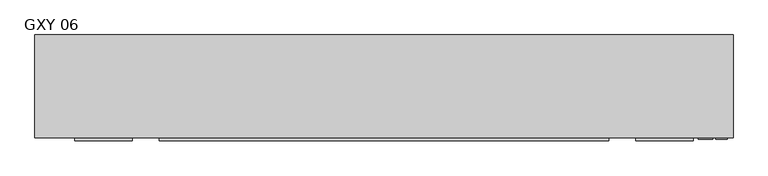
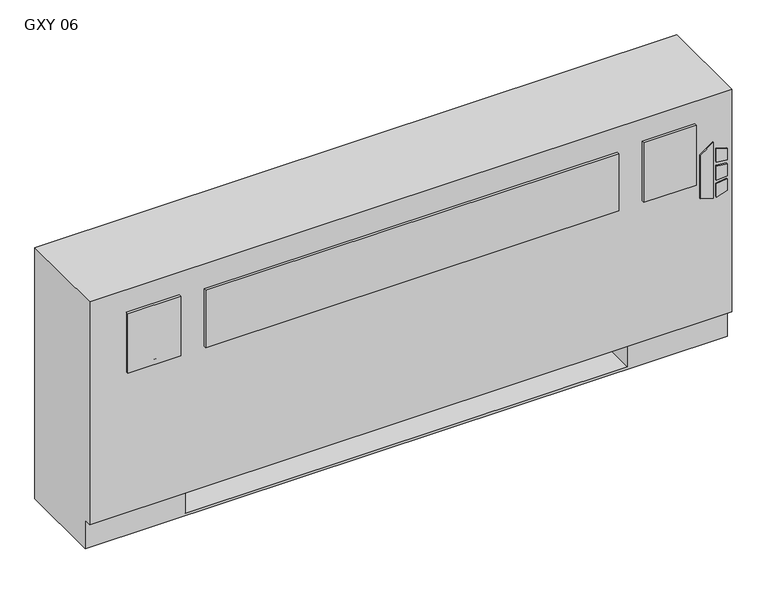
"""IFC4 building model written with IfcOpenShell, lengths in millimetres: proxy geometry, Vertical_Fan_Coil_Unit_-_GXY_-_IEC_-_2-Pipe_FS-FR_LH_2022 : GXY 06."""

from ifc_helpers import new_model, si_unit, point, frame, frame_2d, origin, place, context, project, spatial, polyline, circle_curve, trimmed, segment, composite_curve, outline, extrude, source, transform, mapped, element, save
from ifc_brep_helpers import plane_surface, revolved_surface, advanced_brep


def gxy_06_de5f520c(model_context):
    return source(origin(), model_context, "Body", "SolidModel", [
        extrude(outline(polyline([(391.6086829, 849.3868862), (381.6606126, 881.5602728), (523.831537, 881.5602728), (500.8095309, 849.3868862), (391.6086829, 849.3868862)])), frame((0.0, 12.7, 0.0), z_axis=(0.0, 1.0, 0.0), x_axis=(0.0, 0.0, 1.0)), (0.0, 0.0, 1.0), 3.175),
        extrude(outline(polyline([(470.6079683, 888.3186058), (467.4055757, 914.4), (496.6344168, 914.4), (504.6988318, 888.3186058), (470.6079683, 888.3186058)])), frame((0.0, 12.7, 0.0), z_axis=(0.0, 1.0, 0.0), x_axis=(0.0, 0.0, 1.0)), (0.0, 0.0, 1.0), 3.175),
        extrude(outline(polyline([(418.7444414, 914.4), (415.0789404, 888.3186058), (381.6606126, 888.3186058), (390.2948498, 914.4), (418.7444414, 914.4)])), frame((0.0, 12.7, 0.0), z_axis=(0.0, 1.0, 0.0), x_axis=(0.0, 0.0, 1.0)), (0.0, 0.0, 1.0), 3.175),
        extrude(outline(polyline([(458.0596028, 914.4), (460.3414292, 888.3186058), (424.4038806, 888.3186058), (427.1451456, 914.4), (458.0596028, 914.4)])), frame((0.0, 12.7, 0.0), z_axis=(0.0, 1.0, 0.0), x_axis=(0.0, 0.0, 1.0)), (0.0, 0.0, 1.0), 3.175),
        extrude(outline(polyline([(-406.4, 9.525), (-533.4, 9.525), (-533.4, 15.875), (-406.4, 15.875), (-406.4, 9.525)])), frame((0.0, 0.0, 431.8), z_axis=(0.0, 0.0, 1.0), x_axis=(1.0, 0.0, 0.0)), (0.0, 0.0, 1.0), 152.4),
        extrude(outline(polyline([(650.875, 9.525), (-346.075, 9.525), (-346.075, 15.875), (650.875, 15.875), (650.875, 9.525)])), frame((0.0, 0.0, 431.8), z_axis=(0.0, 0.0, 1.0), x_axis=(1.0, 0.0, 0.0)), (0.0, 0.0, 1.0), 146.05),
        extrude(outline(polyline([(838.2, 9.525), (711.2, 9.525), (711.2, 15.875), (838.2, 15.875), (838.2, 9.525)])), frame((0.0, 0.0, 431.8), z_axis=(0.0, 0.0, 1.0), x_axis=(1.0, 0.0, 0.0)), (0.0, 0.0, 1.0), 152.4),
        extrude(outline(polyline([(685.8, 81.534), (685.8, 223.266), (806.45, 223.266), (806.45, 81.534), (685.8, 81.534)])), frame((0.0, 0.0, 327.025), z_axis=(0.0, 0.0, 1.0), x_axis=(1.0, 0.0, 0.0)), (0.0, 0.0, 1.0), 260.35),
        extrude(outline(composite_curve([segment(trimmed(circle_curve(frame_2d((78.9432, 398.5514)), 7.9375), [point((78.9432, 406.4889))], [point((78.9432, 390.6139))], False, "CARTESIAN"), True, "CONTINUOUS"), segment(trimmed(circle_curve(frame_2d((78.9432, 398.5514)), 7.9375), [point((78.9432, 390.6139))], [point((78.9432, 406.4889))], False, "CARTESIAN"), True, "CONTINUOUS")], self_intersect=False)), frame((-431.8, 0.0, 0.0), z_axis=(1.0, 0.0, 0.0), x_axis=(0.0, 1.0, 0.0)), (0.0, 0.0, 1.0), 50.8),
        extrude(outline(composite_curve([segment(trimmed(circle_curve(frame_2d((155.9052, 537.3878)), 7.9375), [point((155.9052, 545.3253))], [point((155.9052, 529.4503))], False, "CARTESIAN"), True, "CONTINUOUS"), segment(trimmed(circle_curve(frame_2d((155.9052, 537.3878)), 7.9375), [point((155.9052, 529.4503))], [point((155.9052, 545.3253))], False, "CARTESIAN"), True, "CONTINUOUS")], self_intersect=False)), frame((-431.8, 0.0, 0.0), z_axis=(1.0, 0.0, 0.0), x_axis=(0.0, 1.0, 0.0)), (0.0, 0.0, 1.0), 50.8),
        advanced_brep(
        [(927.1, 244.475, 641.35), (-622.3, 244.475, 641.35), (-622.3, 15.875, 641.35), (927.1, 15.875, 641.35), (-622.3, 244.475, 0.0), (927.1, 244.475, 0.0), (927.1, 34.925, 0.0), (-622.3, 34.925, 0.0), (685.8, 244.475, 73.025), (914.4, 244.475, 73.025), (914.4, 244.475, 628.65), (685.8, 244.475, 628.65), (685.8, 244.475, 418.0400565), (714.375, 244.475, 418.0400565), (714.375, 244.475, 388.4099435), (685.8, 244.475, 388.4099435), (685.8, 244.475, 290.5125), (714.375, 244.475, 290.5125), (714.375, 244.475, 261.9375), (685.8, 244.475, 261.9375), (685.8, 244.475, 119.0625), (714.375, 244.475, 119.0625), (714.375, 244.475, 90.4875), (685.8, 244.475, 90.4875), (-381.0, 244.475, 628.65), (-609.6, 244.475, 628.65), (-609.6, 244.475, 73.025), (-381.0, 244.475, 73.025), (-381.0, 244.475, 90.4875), (-409.575, 244.475, 90.4875), (-409.575, 244.475, 119.0625), (-381.0, 244.475, 119.0625), (-381.0, 244.475, 261.9375), (-409.575, 244.475, 261.9375), (-409.575, 244.475, 290.5125), (-381.0, 244.475, 290.5125), (-381.0, 244.475, 388.4099435), (-409.575, 244.475, 388.4099435), (-409.575, 244.475, 418.0400565), (-381.0, 244.475, 418.0400565), (704.0626, 244.475, 104.775), (692.9374, 244.475, 104.775), (704.0626, 244.475, 403.225), (692.9374, 244.475, 403.225), (704.0626, 244.475, 276.225), (692.9374, 244.475, 276.225), (-388.1374, 244.475, 104.775), (-399.2626, 244.475, 104.775), (-388.1374, 244.475, 276.225), (-399.2626, 244.475, 276.225), (-388.1374, 244.475, 403.225), (-399.2626, 244.475, 403.225), (-622.3, 34.925, 73.025), (-622.3, 15.875, 73.025), (927.1, 15.875, 73.025), (927.1, 34.925, 73.025), (-381.0, 34.925, 73.025), (-381.0, 219.075, 73.025), (685.8, 219.075, 73.025), (685.8, 34.925, 73.025), (685.8, 34.925, 6.35), (-381.0, 34.925, 6.35), (685.8, 41.275, 628.65), (914.4, 41.275, 628.65), (914.4, 41.275, 73.025), (685.8, 41.275, 73.025), (-381.0, 41.275, 628.65), (-381.0, 41.275, 73.025), (-609.6, 41.275, 73.025), (-609.6, 41.275, 628.65), (685.8, 219.075, 73.025), (685.8, 238.125, 90.4875), (685.8, 238.125, 119.0625), (685.8, 238.125, 261.9375), (685.8, 238.125, 290.5125), (685.8, 238.125, 388.4099435), (685.8, 238.125, 418.0400565), (-381.0, 219.075, 73.025), (-381.0, 238.125, 418.0400565), (-381.0, 238.125, 388.4099435), (-381.0, 238.125, 290.5125), (-381.0, 238.125, 261.9375), (-381.0, 238.125, 119.0625), (-381.0, 238.125, 90.4875), (-381.0, 219.075, 6.35), (685.8, 219.075, 6.35), (714.375, 238.125, 90.4875), (714.375, 238.125, 119.0625), (692.9374, 238.125, 104.775), (704.0626, 238.125, 104.775), (714.375, 238.125, 261.9375), (714.375, 238.125, 290.5125), (692.9374, 238.125, 276.225), (704.0626, 238.125, 276.225), (714.375, 238.125, 388.4099435), (714.375, 238.125, 418.0400565), (692.9374, 238.125, 403.225), (704.0626, 238.125, 403.225), (-409.575, 238.125, 119.0625), (-409.575, 238.125, 90.4875), (-399.2626, 238.125, 104.775), (-388.1374, 238.125, 104.775), (-409.575, 238.125, 290.5125), (-409.575, 238.125, 261.9375), (-399.2626, 238.125, 276.225), (-388.1374, 238.125, 276.225), (-409.575, 238.125, 418.0400565), (-409.575, 238.125, 388.4099435), (-399.2626, 238.125, 403.225), (-388.1374, 238.125, 403.225)],
        [
            (0, 1),
            (1, 2),
            (2, 3),
            (3, 0),
            (4, 5),
            (5, 6),
            (6, 7),
            (7, 4),
            (0, 5),
            (4, 1),
            (8, 9),
            (9, 10),
            (10, 11),
            (11, 12),
            (12, 13),
            (13, 14),
            (14, 15),
            (15, 16),
            (16, 17),
            (17, 18),
            (18, 19),
            (19, 20),
            (20, 21),
            (21, 22),
            (22, 23),
            (23, 8),
            (24, 25),
            (25, 26),
            (26, 27),
            (27, 28),
            (28, 29),
            (29, 30),
            (30, 31),
            (31, 32),
            (32, 33),
            (33, 34),
            (34, 35),
            (35, 36),
            (36, 37),
            (37, 38),
            (38, 39),
            (39, 24),
            (40, 41, circle_curve(frame((698.5, 244.475, 104.775), z_axis=(0.0, -1.0, 0.0), x_axis=(-1.0, 0.0, 0.0)), 5.5626)),
            (41, 40, circle_curve(frame((698.5, 244.475, 104.775), z_axis=(0.0, -1.0, 0.0), x_axis=(-1.0, 0.0, 0.0)), 5.5626)),
            (42, 43, circle_curve(frame((698.5, 244.475, 403.225), z_axis=(0.0, -1.0, 0.0), x_axis=(-1.0, 0.0, 0.0)), 5.5626)),
            (43, 42, circle_curve(frame((698.5, 244.475, 403.225), z_axis=(0.0, -1.0, 0.0), x_axis=(-1.0, 0.0, 0.0)), 5.5626)),
            (44, 45, circle_curve(frame((698.5, 244.475, 276.225), z_axis=(0.0, -1.0, 0.0), x_axis=(-1.0, 0.0, 0.0)), 5.5626)),
            (45, 44, circle_curve(frame((698.5, 244.475, 276.225), z_axis=(0.0, -1.0, 0.0), x_axis=(-1.0, 0.0, 0.0)), 5.5626)),
            (46, 47, circle_curve(frame((-393.7, 244.475, 104.775), z_axis=(0.0, -1.0, 0.0), x_axis=(-1.0, 0.0, 0.0)), 5.5626)),
            (47, 46, circle_curve(frame((-393.7, 244.475, 104.775), z_axis=(0.0, -1.0, 0.0), x_axis=(-1.0, 0.0, 0.0)), 5.5626)),
            (48, 49, circle_curve(frame((-393.7, 244.475, 276.225), z_axis=(0.0, -1.0, 0.0), x_axis=(-1.0, 0.0, 0.0)), 5.5626)),
            (49, 48, circle_curve(frame((-393.7, 244.475, 276.225), z_axis=(0.0, -1.0, 0.0), x_axis=(-1.0, 0.0, 0.0)), 5.5626)),
            (50, 51, circle_curve(frame((-393.7, 244.475, 403.225), z_axis=(0.0, -1.0, 0.0), x_axis=(-1.0, 0.0, 0.0)), 5.5626)),
            (51, 50, circle_curve(frame((-393.7, 244.475, 403.225), z_axis=(0.0, -1.0, 0.0), x_axis=(-1.0, 0.0, 0.0)), 5.5626)),
            (7, 52),
            (52, 53),
            (53, 2),
            (53, 54),
            (54, 3),
            (54, 55),
            (55, 6),
            (52, 56),
            (56, 57),
            (57, 58),
            (58, 59),
            (59, 55),
            (59, 60),
            (60, 61),
            (61, 56),
            (62, 63),
            (63, 64),
            (64, 65),
            (65, 62),
            (66, 67),
            (67, 68),
            (68, 69),
            (69, 66),
            (65, 70),
            (70, 8),
            (23, 71),
            (71, 72),
            (72, 20),
            (19, 73),
            (73, 74),
            (74, 16),
            (15, 75),
            (75, 76),
            (76, 12),
            (11, 62),
            (64, 9),
            (63, 10),
            (69, 25),
            (24, 66),
            (68, 26),
            (67, 77),
            (77, 27),
            (39, 78),
            (78, 79),
            (79, 36),
            (35, 80),
            (80, 81),
            (81, 32),
            (31, 82),
            (82, 83),
            (83, 28),
            (57, 84),
            (84, 85),
            (85, 58),
            (85, 60),
            (84, 61),
            (71, 86),
            (86, 87),
            (87, 72),
            (88, 89, circle_curve(frame((698.5, 238.125, 104.775), z_axis=(0.0, 1.0, 0.0), x_axis=(-1.0, 0.0, 0.0)), 5.5626)),
            (89, 88, circle_curve(frame((698.5, 238.125, 104.775), z_axis=(0.0, 1.0, 0.0), x_axis=(-1.0, 0.0, 0.0)), 5.5626)),
            (73, 90),
            (90, 91),
            (91, 74),
            (92, 93, circle_curve(frame((698.5, 238.125, 276.225), z_axis=(0.0, 1.0, 0.0), x_axis=(-1.0, 0.0, 0.0)), 5.5626)),
            (93, 92, circle_curve(frame((698.5, 238.125, 276.225), z_axis=(0.0, 1.0, 0.0), x_axis=(-1.0, 0.0, 0.0)), 5.5626)),
            (75, 94),
            (94, 95),
            (95, 76),
            (96, 97, circle_curve(frame((698.5, 238.125, 403.225), z_axis=(0.0, 1.0, 0.0), x_axis=(-1.0, 0.0, 0.0)), 5.5626)),
            (97, 96, circle_curve(frame((698.5, 238.125, 403.225), z_axis=(0.0, 1.0, 0.0), x_axis=(-1.0, 0.0, 0.0)), 5.5626)),
            (98, 99),
            (99, 83),
            (82, 98),
            (100, 101, circle_curve(frame((-393.7, 238.125, 104.775), z_axis=(0.0, 1.0, 0.0), x_axis=(-1.0, 0.0, 0.0)), 5.5626)),
            (101, 100, circle_curve(frame((-393.7, 238.125, 104.775), z_axis=(0.0, 1.0, 0.0), x_axis=(-1.0, 0.0, 0.0)), 5.5626)),
            (102, 103),
            (103, 81),
            (80, 102),
            (104, 105, circle_curve(frame((-393.7, 238.125, 276.225), z_axis=(0.0, 1.0, 0.0), x_axis=(-1.0, 0.0, 0.0)), 5.5626)),
            (105, 104, circle_curve(frame((-393.7, 238.125, 276.225), z_axis=(0.0, 1.0, 0.0), x_axis=(-1.0, 0.0, 0.0)), 5.5626)),
            (106, 107),
            (107, 79),
            (78, 106),
            (108, 109, circle_curve(frame((-393.7, 238.125, 403.225), z_axis=(0.0, 1.0, 0.0), x_axis=(-1.0, 0.0, 0.0)), 5.5626)),
            (109, 108, circle_curve(frame((-393.7, 238.125, 403.225), z_axis=(0.0, 1.0, 0.0), x_axis=(-1.0, 0.0, 0.0)), 5.5626)),
            (87, 21),
            (86, 22),
            (91, 17),
            (90, 18),
            (95, 13),
            (94, 14),
            (30, 98),
            (99, 29),
            (34, 102),
            (103, 33),
            (38, 106),
            (107, 37),
            (88, 41),
            (40, 89),
            (96, 43),
            (42, 97),
            (92, 45),
            (44, 93),
            (100, 47),
            (46, 101),
            (104, 49),
            (48, 105),
            (108, 51),
            (50, 109),
        ],
        [
            plane_surface(frame((-622.3, 244.475, 641.35), z_axis=(0.0, 0.0, 1.0), x_axis=(-1.0, 0.0, 0.0))),
            plane_surface(frame((-622.3, 244.475, 0.0), z_axis=(0.0, 0.0, -1.0), x_axis=(1.0, 0.0, 0.0))),
            plane_surface(frame((927.1, 244.475, 641.35), z_axis=(0.0, 1.0, 0.0), x_axis=(0.0, 0.0, -1.0))),
            plane_surface(frame((-622.3, 244.475, 641.35), z_axis=(-1.0, 0.0, 0.0), x_axis=(0.0, 0.0, -1.0))),
            plane_surface(frame((-622.3, 15.875, 641.35), z_axis=(0.0, -1.0, 0.0), x_axis=(0.0, 0.0, -1.0))),
            plane_surface(frame((927.1, 15.875, 641.35), z_axis=(1.0, 0.0, 0.0), x_axis=(0.0, 0.0, -1.0))),
            plane_surface(frame((-622.3, 15.875, 73.025), z_axis=(0.0, 0.0, -1.0), x_axis=(1.0, 0.0, 0.0))),
            plane_surface(frame((-622.3, 34.925, 73.025), z_axis=(0.0, -1.0, 0.0), x_axis=(1.0, 0.0, 0.0))),
            plane_surface(frame((685.8, 41.275, 628.65), z_axis=(0.0, 1.0, 0.0), x_axis=(0.0, 0.0, -1.0))),
            plane_surface(frame((685.8, 41.275, 628.65), z_axis=(1.0, 0.0, 0.0), x_axis=(0.0, 1.0, 0.0))),
            plane_surface(frame((685.8, 41.275, 73.025), z_axis=(0.0, 0.0, 1.0), x_axis=(0.0, 1.0, 0.0))),
            plane_surface(frame((914.4, 41.275, 73.025), z_axis=(-1.0, 0.0, 0.0), x_axis=(0.0, 1.0, 0.0))),
            plane_surface(frame((914.4, 41.275, 628.65), z_axis=(0.0, 0.0, -1.0), x_axis=(0.0, 1.0, 0.0))),
            plane_surface(frame((-381.0, 41.275, 628.65), z_axis=(0.0, 0.0, -1.0), x_axis=(0.0, 1.0, 0.0))),
            plane_surface(frame((-609.6, 41.275, 628.65), z_axis=(1.0, 0.0, 0.0), x_axis=(0.0, 1.0, 0.0))),
            plane_surface(frame((-609.6, 41.275, 73.025), z_axis=(0.0, 0.0, 1.0), x_axis=(0.0, 1.0, 0.0))),
            plane_surface(frame((-381.0, 41.275, 73.025), z_axis=(-1.0, 0.0, 0.0), x_axis=(0.0, 1.0, 0.0))),
            plane_surface(frame((685.8, 219.075, 73.025), z_axis=(0.0, -1.0, 0.0), x_axis=(0.0, 0.0, -1.0))),
            plane_surface(frame((685.8, 219.075, 73.025), z_axis=(-1.0, 0.0, 0.0), x_axis=(0.0, -1.0, 0.0))),
            plane_surface(frame((685.8, 219.075, 6.35), z_axis=(0.0, 0.0, 1.0), x_axis=(0.0, -1.0, 0.0))),
            plane_surface(frame((-381.0, 219.075, 6.35), z_axis=(1.0, 0.0, 0.0), x_axis=(0.0, -1.0, 0.0))),
            plane_surface(frame((714.375, 238.125, 119.0625), z_axis=(0.0, -1.0, 0.0), x_axis=(-1.0, 0.0, 0.0))),
            plane_surface(frame((685.8, 244.475, 119.0625), z_axis=(0.0, 0.0, 1.0), x_axis=(0.0, -1.0, 0.0))),
            plane_surface(frame((714.375, 244.475, 119.0625), z_axis=(1.0, 0.0, 0.0), x_axis=(0.0, -1.0, 0.0))),
            plane_surface(frame((714.375, 244.475, 90.4875), z_axis=(0.0, 0.0, -1.0), x_axis=(0.0, -1.0, 0.0))),
            plane_surface(frame((685.8, 244.475, 290.5125), z_axis=(0.0, 0.0, 1.0), x_axis=(0.0, -1.0, 0.0))),
            plane_surface(frame((714.375, 244.475, 290.5125), z_axis=(1.0, 0.0, 0.0), x_axis=(0.0, -1.0, 0.0))),
            plane_surface(frame((714.375, 244.475, 261.9375), z_axis=(0.0, 0.0, -1.0), x_axis=(0.0, -1.0, 0.0))),
            plane_surface(frame((685.8, 244.475, 418.0400565), z_axis=(0.0, 0.0, 1.0), x_axis=(0.0, -1.0, 0.0))),
            plane_surface(frame((714.375, 244.475, 418.0400565), z_axis=(1.0, 0.0, 0.0), x_axis=(0.0, -1.0, 0.0))),
            plane_surface(frame((714.375, 244.475, 388.4099435), z_axis=(0.0, 0.0, -1.0), x_axis=(0.0, -1.0, 0.0))),
            plane_surface(frame((-409.575, 244.475, 119.0625), z_axis=(0.0, 0.0, 1.0), x_axis=(0.0, -1.0, 0.0))),
            plane_surface(frame((-381.0, 244.475, 90.4875), z_axis=(0.0, 0.0, -1.0), x_axis=(0.0, -1.0, 0.0))),
            plane_surface(frame((-409.575, 244.475, 90.4875), z_axis=(-1.0, 0.0, 0.0), x_axis=(0.0, -1.0, 0.0))),
            plane_surface(frame((-409.575, 244.475, 290.5125), z_axis=(0.0, 0.0, 1.0), x_axis=(0.0, -1.0, 0.0))),
            plane_surface(frame((-381.0, 244.475, 261.9375), z_axis=(0.0, 0.0, -1.0), x_axis=(0.0, -1.0, 0.0))),
            plane_surface(frame((-409.575, 244.475, 261.9375), z_axis=(-1.0, 0.0, 0.0), x_axis=(0.0, -1.0, 0.0))),
            plane_surface(frame((-409.575, 244.475, 418.0400565), z_axis=(0.0, 0.0, 1.0), x_axis=(0.0, -1.0, 0.0))),
            plane_surface(frame((-381.0, 244.475, 388.4099435), z_axis=(0.0, 0.0, -1.0), x_axis=(0.0, -1.0, 0.0))),
            plane_surface(frame((-409.575, 244.475, 388.4099435), z_axis=(-1.0, 0.0, 0.0), x_axis=(0.0, -1.0, 0.0))),
            revolved_surface(polyline([(692.9374, 238.125, 104.775), (692.9374, 244.475, 104.775)]), (698.5, 244.475, 104.775), (0.0, -1.0, 0.0)),
            revolved_surface(polyline([(692.9374, 238.125, 403.225), (692.9374, 244.475, 403.225)]), (698.5, 244.475, 403.225), (0.0, -1.0, 0.0)),
            revolved_surface(polyline([(692.9374, 238.125, 276.225), (692.9374, 244.475, 276.225)]), (698.5, 244.475, 276.225), (0.0, -1.0, 0.0)),
            revolved_surface(polyline([(-399.26259999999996, 238.125, 104.775), (-399.26259999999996, 244.475, 104.775)]), (-393.7, 244.475, 104.775), (0.0, -1.0, 0.0)),
            revolved_surface(polyline([(-399.26259999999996, 238.125, 276.225), (-399.26259999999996, 244.475, 276.225)]), (-393.7, 244.475, 276.225), (0.0, -1.0, 0.0)),
            revolved_surface(polyline([(-399.26259999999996, 238.125, 403.225), (-399.26259999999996, 244.475, 403.225)]), (-393.7, 244.475, 403.225), (0.0, -1.0, 0.0)),
        ],
        [
            (0, [[1, 2, 3, 4]]),
            (1, [[5, 6, 7, 8]]),
            (2, [[-1, 9, -5, 10], [11, 12, 13, 14, 15, 16, 17, 18, 19, 20, 21, 22, 23, 24, 25, 26], [27, 28, 29, 30, 31, 32, 33, 34, 35, 36, 37, 38, 39, 40, 41, 42], [43, 44], [45, 46], [47, 48], [49, 50], [51, 52], [53, 54]]),
            (3, [[-2, -10, -8, 55, 56, 57]]),
            (4, [[-3, -57, 58, 59]]),
            (5, [[-4, -59, 60, 61, -6, -9]]),
            (6, [[-56, 62, 63, 64, 65, 66, -60, -58]]),
            (7, [[-7, -61, -66, 67, 68, 69, -62, -55]]),
            (8, [[70, 71, 72, 73]]),
            (8, [[74, 75, 76, 77]]),
            (9, [[-73, 78, 79, -26, 80, 81, 82, -22, 83, 84, 85, -18, 86, 87, 88, -14, 89]]),
            (10, [[-72, 90, -11, -79, -78]]),
            (11, [[-71, 91, -12, -90]]),
            (12, [[-70, -89, -13, -91]]),
            (13, [[-77, 92, -27, 93]]),
            (14, [[-76, 94, -28, -92]]),
            (15, [[-75, 95, 96, -29, -94]]),
            (16, [[-74, -93, -42, 97, 98, 99, -38, 100, 101, 102, -34, 103, 104, 105, -30, -96, -95]]),
            (17, [[-64, 106, 107, 108]]),
            (18, [[-108, 109, -67, -65]]),
            (19, [[-107, 110, -68, -109]]),
            (20, [[-106, -63, -69, -110]]),
            (21, [[111, 112, 113, -81], [114, 115]]),
            (21, [[116, 117, 118, -84], [119, 120]]),
            (21, [[121, 122, 123, -87], [124, 125]]),
            (21, [[126, 127, -104, 128], [129, 130]]),
            (21, [[131, 132, -101, 133], [134, 135]]),
            (21, [[136, 137, -98, 138], [139, 140]]),
            (22, [[-113, 141, -23, -82]]),
            (23, [[-112, 142, -24, -141]]),
            (24, [[-111, -80, -25, -142]]),
            (25, [[-118, 143, -19, -85]]),
            (26, [[-117, 144, -20, -143]]),
            (27, [[-116, -83, -21, -144]]),
            (28, [[-123, 145, -15, -88]]),
            (29, [[-122, 146, -16, -145]]),
            (30, [[-121, -86, -17, -146]]),
            (31, [[-128, -103, -33, 147]]),
            (32, [[-127, 148, -31, -105]]),
            (33, [[-126, -147, -32, -148]]),
            (34, [[-133, -100, -37, 149]]),
            (35, [[-132, 150, -35, -102]]),
            (36, [[-131, -149, -36, -150]]),
            (37, [[-138, -97, -41, 151]]),
            (38, [[-137, 152, -39, -99]]),
            (39, [[-136, -151, -40, -152]]),
            (40, [[153, -43, 154, -114]]),
            (40, [[-153, -115, -154, -44]]),
            (41, [[155, -45, 156, -124]]),
            (41, [[-155, -125, -156, -46]]),
            (42, [[157, -47, 158, -119]]),
            (42, [[-157, -120, -158, -48]]),
            (43, [[159, -49, 160, -129]]),
            (43, [[-159, -130, -160, -50]]),
            (44, [[161, -51, 162, -134]]),
            (44, [[-161, -135, -162, -52]]),
            (45, [[163, -53, 164, -139]]),
            (45, [[-163, -140, -164, -54]]),
        ],
    ),
    ])


if __name__ == "__main__":
    model = new_model("IFC4")
    model_context = context("Model", 3, world=origin())
    ifc_project = project(units=[si_unit("LENGTHUNIT", "METRE", prefix="MILLI")], contexts=[model_context])
    site = spatial("IfcSite", under=ifc_project)
    building = spatial("IfcBuilding", under=site)
    placement = place(None, origin())
    gxy_06_shape = gxy_06_de5f520c(model_context)
    element("IfcBuildingElementProxy", 1, Name="Vertical_Fan_Coil_Unit_-_GXY_-_IEC_-_2-Pipe_FS-FR_LH_2022 : GXY 06", ObjectType="Vertical_Fan_Coil_Unit_-_GXY_-_IEC_-_2-Pipe_FS-FR_LH_2022 : GXY 06", at=placement, inside=building, context=model_context, shape_type="MappedRepresentation", body=[
        mapped(gxy_06_shape, transform((0.0, 0.0, 0.0), x_axis=(1.0, 0.0, 0.0), y_axis=(0.0, 1.0, 0.0), z_axis=(0.0, 0.0, 1.0))),
    ])
    save(model, "model.ifc")
